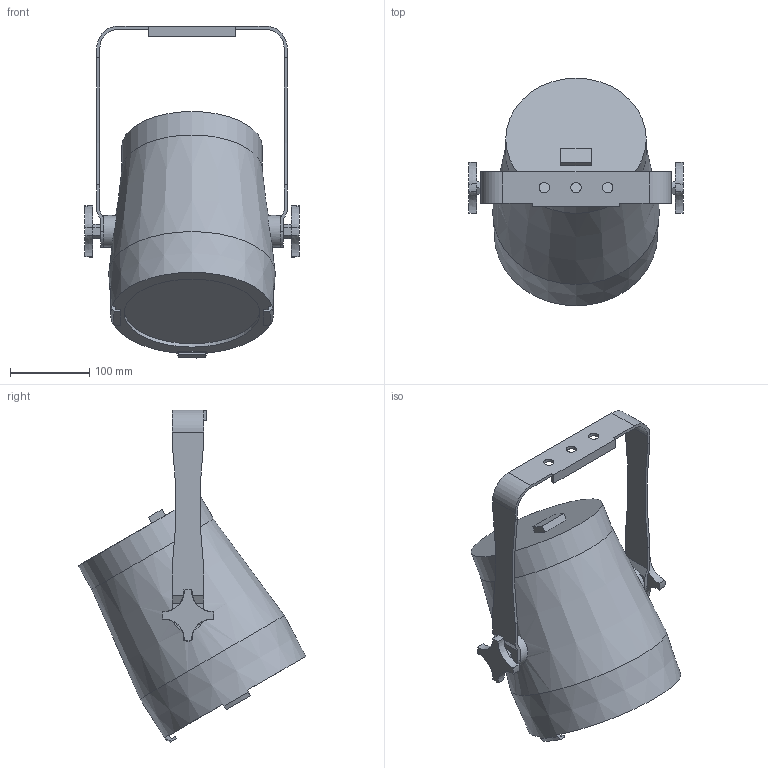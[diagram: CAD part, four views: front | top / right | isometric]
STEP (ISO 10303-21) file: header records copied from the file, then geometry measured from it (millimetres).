
FILE_DESCRIPTION(/* description */ (''),/* implementation_level */ '2;1');
FILE_NAME(/* name */ 'D:/dgooch/Documents/CADENG/PRO/COLORado 3 Solo/30/3D/COLORado 3 Solo_30.step',/* time_stamp */ '2019-09-11T09:54:04-04:00',/* author */ (''),/* organization */ (''),/* preprocessor_version */ 'ST-DEVELOPER v18',/* originating_system */ 'Autodesk Translation Framework v8.6.0.1094',/* authorisation */ '');
FILE_SCHEMA (('AUTOMOTIVE_DESIGN { 1 0 10303 214 3 1 1 }'));
Length unit declared in the file: millimetre
Products named in the file (4): COLORADO2SOLO; Bracket; RD-SS354XCEM-009-A; Main
Assembly tree (3 placements, depth 3):
  COLORADO2SOLO
    Bracket
      RD-SS354XCEM-009-A
    Main
Bounding box: 269.93 x 286.31 x 417.92 mm (x, y, z)
Volume: 7292603.8 mm3; surface area: 306986.1 mm2
Topology: 3 solids, 3 shells, 113 faces, 299 edges, 200 vertices
Faces by surface type: plane 72, cone 21, cylinder 20
Full cylindrical faces by diameter (mm): 9.8 x3, 13 x3, 40 x2, 171 x1, 176.944 x1
Entity records: 3793 total; most frequent: CARTESIAN_POINT 858, ORIENTED_EDGE 598, DIRECTION 584, EDGE_CURVE 299, AXIS2_PLACEMENT_3D 201, VERTEX_POINT 200, LINE 182, VECTOR 182
